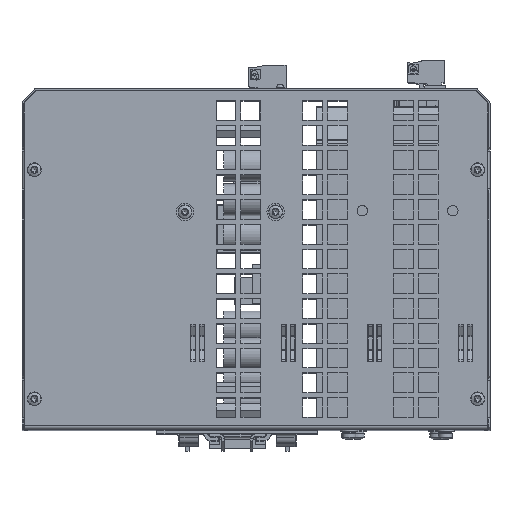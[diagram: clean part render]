
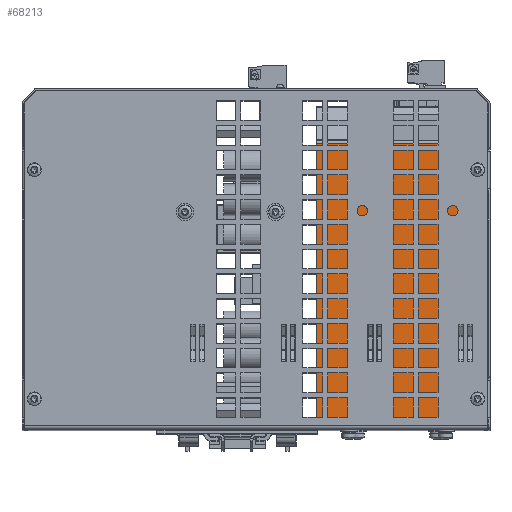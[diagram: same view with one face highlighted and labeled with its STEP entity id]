
A CAD part, top view. The second image highlights one B-rep face of the part: STEP entity #68213.
In plain terms, the highlighted planar face has unit normal (0, 0, 1) as drawn and (-1, 0, 0) by its records, which use the part's own axes.
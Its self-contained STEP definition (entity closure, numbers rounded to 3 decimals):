
#3703=PLANE('',#73797);
#7821=FACE_OUTER_BOUND('',#12197,.T.);
#12197=EDGE_LOOP('',(#58748,#58749,#58750,#58751));
#18963=LINE('',#108638,#26554);
#18970=LINE('',#108662,#26561);
#18972=LINE('',#108666,#26563);
#18973=LINE('',#108667,#26564);
#26554=VECTOR('',#88524,10.);
#26561=VECTOR('',#88543,10.);
#26563=VECTOR('',#88547,10.);
#26564=VECTOR('',#88548,10.);
#34284=VERTEX_POINT('',#108635);
#34285=VERTEX_POINT('',#108637);
#34296=VERTEX_POINT('',#108660);
#34297=VERTEX_POINT('',#108665);
#42657=EDGE_CURVE('',#34285,#34284,#18963,.T.);
#42669=EDGE_CURVE('',#34284,#34296,#18970,.T.);
#42671=EDGE_CURVE('',#34296,#34297,#18972,.T.);
#42672=EDGE_CURVE('',#34285,#34297,#18973,.T.);
#58748=ORIENTED_EDGE('',*,*,#42671,.T.);
#58749=ORIENTED_EDGE('',*,*,#42672,.F.);
#58750=ORIENTED_EDGE('',*,*,#42657,.T.);
#58751=ORIENTED_EDGE('',*,*,#42669,.T.);
#68213=ADVANCED_FACE('',(#7821),#3703,.T.);
#73797=AXIS2_PLACEMENT_3D('',#108664,#88545,#88546);
#88524=DIRECTION('',(0.,0.,1.));
#88543=DIRECTION('',(0.,1.,0.));
#88545=DIRECTION('center_axis',(-1.,0.,0.));
#88546=DIRECTION('ref_axis',(0.,0.,1.));
#88547=DIRECTION('',(0.,0.,-1.));
#88548=DIRECTION('',(0.,1.,0.));
#108635=CARTESIAN_POINT('',(-61.,-32.5,114.99));
#108637=CARTESIAN_POINT('',(-61.,-32.5,0.));
#108638=CARTESIAN_POINT('',(-61.,-32.5,0.));
#108660=CARTESIAN_POINT('',(-61.,32.5,114.99));
#108662=CARTESIAN_POINT('',(-61.,0.,114.99));
#108664=CARTESIAN_POINT('Origin',(-61.,0.,114.99));
#108665=CARTESIAN_POINT('',(-61.,32.5,0.));
#108666=CARTESIAN_POINT('',(-61.,32.5,0.));
#108667=CARTESIAN_POINT('',(-61.,0.,0.));
